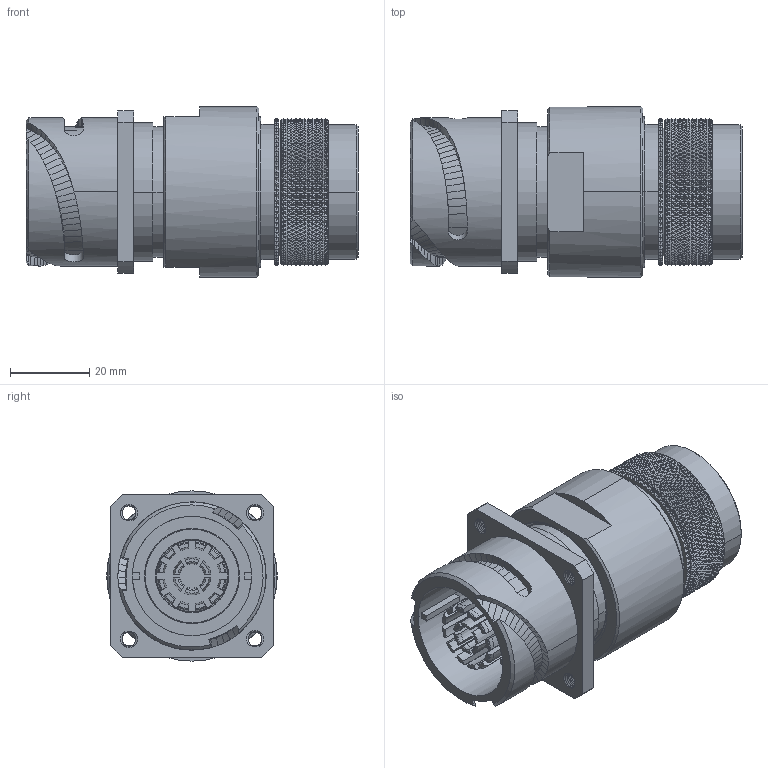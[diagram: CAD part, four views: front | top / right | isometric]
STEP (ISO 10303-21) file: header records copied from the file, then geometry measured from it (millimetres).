
FILE_DESCRIPTION((''),'2;1');
FILE_NAME('GCE3100E22M95S-B-T14_SW0001','2023-06-01T14:23:05',('paultorloting'),('NET AG system integration'),'CREO PARAMETRIC BY PTC INC, 2021404','CREO PARAMETRIC BY PTC INC, 2021404','');
FILE_SCHEMA(('AUTOMOTIVE_DESIGN { 1 0 10303 214 1 1 1 1 }'));
Products named in the file (1): GCE3100E22M95S-B-T14_SW0001
Bounding box: 83.81 x 43 x 43 mm (x, y, z)
Volume: 82106.7 mm3; surface area: 22721.6 mm2
Topology: 1 solids, 2 shells, 7855 faces, 16643 edges, 8838 vertices
Faces by surface type: bspline 4894, plane 1626, cylinder 1191, cone 102, torus 42
Entity records: 292064 total; most frequent: CARTESIAN_POINT 160525, ORIENTED_EDGE 33286, EDGE_CURVE 16643, B_SPLINE_CURVE_WITH_KNOTS 12759, DIRECTION 10101, VERTEX_POINT 8838, EDGE_LOOP 7911, FACE_OUTER_BOUND 7855
